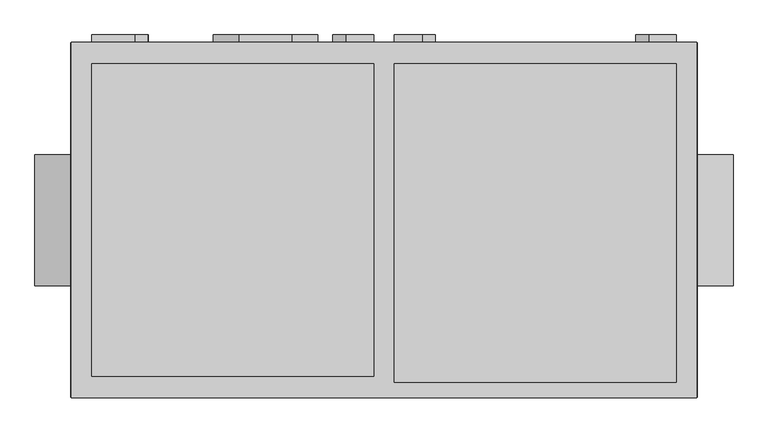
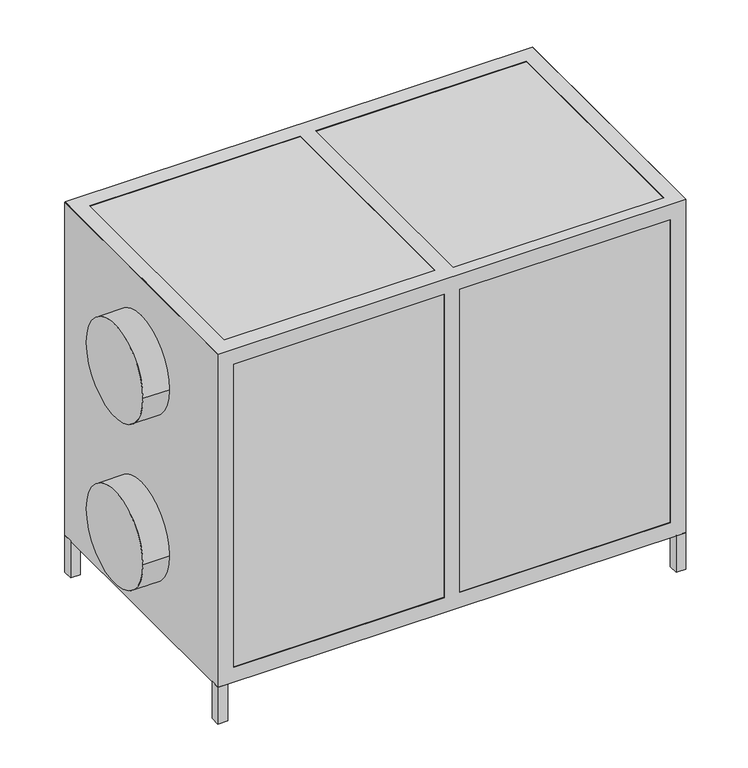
"""IFC4 building model written with IfcOpenShell, lengths in millimetres: proxy geometry, AVS 400...1600-S-RC(RG)-L : AVS 1100-S-RG-L."""

from ifc_helpers import new_model, si_unit, point, frame, frame_2d, origin, origin_with_axes, place, context, project, spatial, polyline, circle_curve, trimmed, segment, composite_curve, outline, extrude, faceted_brep, source, transform, mapped, element, save


def mechanical_equipment_707ccb95(model_context):
    return source(origin(), model_context, "Body", "SolidModel", [
        extrude(outline(polyline([(572.5, 338.0), (597.5, 338.0), (597.5, 313.0), (572.5, 313.0), (572.5, 338.0)])), origin_with_axes(), (0.0, 0.0, 1.0), 100.0),
        extrude(outline(polyline([(572.5, -338.0), (572.5, -313.0), (597.5, -313.0), (597.5, -338.0), (572.5, -338.0)])), origin_with_axes(), (0.0, 0.0, 1.0), 100.0),
        extrude(outline(polyline([(-597.5, 313.0), (-597.5, 338.0), (-572.5, 338.0), (-572.5, 313.0), (-597.5, 313.0)])), origin_with_axes(), (0.0, 0.0, 1.0), 100.0),
        extrude(outline(polyline([(-597.5, -313.0), (-572.5, -313.0), (-572.5, -338.0), (-597.5, -338.0), (-597.5, -313.0)])), origin_with_axes(), (0.0, 0.0, 1.0), 100.0),
        faceted_brep([(596.5, 339.0, 999.0), (-596.5, 339.0, 999.0), (-596.5, -339.0, 999.0), (596.5, -339.0, 999.0), (-557.5, 298.0, 999.0), (-20.0, 298.0, 999.0), (-20.0, -298.0, 999.0), (-557.5, -298.0, 999.0), (557.5, 298.0, 999.0), (557.5, -309.0, 999.0), (20.0, -309.0, 999.0), (20.0, 298.0, 999.0), (596.5, 339.0, 99.0), (596.5, -339.0, 99.0), (-596.5, -339.0, 99.0), (-596.5, 339.0, 99.0), (-20.0, 298.0, 99.0), (-557.5, 298.0, 99.0), (-557.5, -298.0, 99.0), (-20.0, -298.0, 99.0), (557.5, -309.0, 99.0), (557.5, 298.0, 99.0), (20.0, 298.0, 99.0), (20.0, -309.0, 99.0), (-20.0, 339.0, 958.0), (-557.5, 339.0, 958.0), (-557.5, 339.0, 140.0), (-20.0, 339.0, 140.0), (557.5, 339.0, 140.0), (557.5, 339.0, 958.0), (20.0, 339.0, 958.0), (20.0, 339.0, 140.0), (-596.5, -298.0, 958.0), (-596.5, -298.0, 140.0), (-596.5, 298.0, 140.0), (-596.5, 298.0, 958.0), (-557.5, -339.0, 958.0), (-20.0, -339.0, 958.0), (-20.0, -339.0, 140.0), (-557.5, -339.0, 140.0), (557.5, -339.0, 958.0), (557.5, -339.0, 140.0), (20.0, -339.0, 140.0), (20.0, -339.0, 958.0), (596.5, -298.0, 140.0), (596.5, -298.0, 958.0), (596.5, 298.0, 958.0), (596.5, 298.0, 140.0), (-557.5, 298.0, 958.0), (-20.0, 298.0, 958.0), (-20.0, 298.0, 140.0), (-557.5, 298.0, 140.0), (-20.0, -298.0, 958.0), (-557.5, -298.0, 958.0), (-557.5, -298.0, 140.0), (-20.0, -298.0, 140.0), (557.5, 298.0, 958.0), (557.5, -298.0, 958.0), (557.5, -298.0, 140.0), (557.5, 298.0, 140.0), (557.5, -309.0, 140.0), (557.5, -309.0, 958.0), (20.0, 298.0, 958.0), (20.0, -298.0, 958.0), (20.0, -298.0, 140.0), (20.0, 298.0, 140.0), (20.0, -309.0, 958.0), (20.0, -309.0, 140.0)], [[[0, 1, 2, 3], [4, 5, 6, 7], [8, 9, 10, 11]], [[12, 13, 14, 15], [16, 17, 18, 19], [20, 21, 22, 23]], [[1, 0, 12, 15], [24, 25, 26, 27], [28, 29, 30, 31]], [[2, 1, 15, 14], [32, 33, 34, 35]], [[3, 2, 14, 13], [36, 37, 38, 39], [40, 41, 42, 43]], [[0, 3, 13, 12], [44, 45, 46, 47]], [[5, 4, 48, 49]], [[17, 16, 50, 51]], [[7, 6, 52, 53]], [[19, 18, 54, 55]], [[9, 8, 56, 57, 58, 59, 21, 20, 60, 41, 40, 61]], [[56, 29, 28, 59]], [[35, 48, 53, 32]], [[56, 46, 45, 57]], [[49, 62, 63, 52]], [[51, 34, 33, 54]], [[47, 59, 58, 44]], [[55, 64, 65, 50]], [[36, 53, 52, 37]], [[24, 49, 48, 25]], [[54, 39, 38, 55]], [[50, 27, 26, 51]], [[32, 53, 54, 33]], [[57, 45, 44, 58]], [[52, 63, 64, 55]], [[48, 35, 34, 51]], [[62, 49, 50, 65]], [[59, 47, 46, 56]], [[4, 7, 53, 48]], [[18, 17, 51, 54]], [[53, 36, 39, 54]], [[25, 48, 51, 26]], [[6, 5, 49, 52]], [[16, 19, 55, 50]], [[37, 52, 55, 38]], [[49, 24, 27, 50]], [[8, 11, 62, 56]], [[22, 21, 59, 65]], [[11, 10, 66, 43, 42, 67, 23, 22, 65, 64, 63, 62]], [[30, 62, 65, 31]], [[10, 9, 61, 66]], [[20, 23, 67, 60]], [[61, 40, 43, 66]], [[29, 56, 62, 30]], [[41, 60, 67, 42]], [[59, 28, 31, 65]]]),
        extrude(outline(polyline([(-597.5, 338.0), (597.5, 338.0), (597.5, -338.0), (-597.5, -338.0), (-597.5, 338.0)])), frame((0.0, 0.0, 100.0), z_axis=(0.0, 0.0, 1.0), x_axis=(1.0, 0.0, 0.0)), (0.0, 0.0, 1.0), 898.0),
        extrude(outline(composite_curve([segment(polyline([(798.5, -474.7895396), (798.5, -557.5), (748.5, -557.5), (748.5, -474.7895396)]), True, "CONTINUOUS"), segment(trimmed(circle_curve(frame_2d((773.5, -474.7895396)), 25.0), [point((748.5, -474.7895396))], [point((798.5, -474.7895396))], False, "CARTESIAN"), True, "CONTINUOUS")], self_intersect=False)), frame((0.0, 338.0, 0.0), z_axis=(0.0, 1.0, 0.0), x_axis=(0.0, 0.0, 1.0)), (0.0, 0.0, 1.0), 15.0),
        extrude(outline(composite_curve([segment(polyline([(349.5, -474.7895396), (349.5, -557.5), (299.5, -557.5), (299.5, -474.7895396)]), True, "CONTINUOUS"), segment(trimmed(circle_curve(frame_2d((324.5, -474.7895396)), 25.0), [point((299.5, -474.7895396))], [point((349.5, -474.7895396))], False, "CARTESIAN"), True, "CONTINUOUS")], self_intersect=False)), frame((0.0, 338.0, 0.0), z_axis=(0.0, 1.0, 0.0), x_axis=(0.0, 0.0, 1.0)), (0.0, 0.0, 1.0), 15.0),
        extrude(outline(composite_curve([segment(trimmed(circle_curve(frame_2d((652.0, -72.7104604)), 25.0), [point((677.0, -72.7104604))], [point((627.0, -72.7104604))], False, "CARTESIAN"), True, "CONTINUOUS"), segment(polyline([(627.0, -72.7104604), (627.0, -20.0), (677.0, -20.0), (677.0, -72.7104604)]), True, "CONTINUOUS")], self_intersect=False)), frame((0.0, 338.0, 0.0), z_axis=(0.0, 1.0, 0.0), x_axis=(0.0, 0.0, 1.0)), (0.0, 0.0, 1.0), 15.0),
        extrude(outline(composite_curve([segment(polyline([(369.5, -72.7104604), (369.5, -20.0), (419.5, -20.0), (419.5, -72.7104604)]), True, "CONTINUOUS"), segment(trimmed(circle_curve(frame_2d((394.5, -72.7104604)), 25.0), [point((419.5, -72.7104604))], [point((369.5, -72.7104604))], False, "CARTESIAN"), True, "CONTINUOUS")], self_intersect=False)), frame((0.0, 338.0, 0.0), z_axis=(0.0, 1.0, 0.0), x_axis=(0.0, 0.0, 1.0)), (0.0, 0.0, 1.0), 15.0),
        extrude(outline(composite_curve([segment(trimmed(circle_curve(frame_2d((881.5, 504.7895396)), 25.0), [point((906.5, 504.7895396))], [point((856.5, 504.7895396))], False, "CARTESIAN"), True, "CONTINUOUS"), segment(polyline([(856.5, 504.7895396), (856.5, 557.5), (906.5, 557.5), (906.5, 504.7895396)]), True, "CONTINUOUS")], self_intersect=False)), frame((0.0, 338.0, 0.0), z_axis=(0.0, 1.0, 0.0), x_axis=(0.0, 0.0, 1.0)), (0.0, 0.0, 1.0), 15.0),
        extrude(outline(composite_curve([segment(polyline([(191.5, 504.7895396), (191.5, 557.5), (241.5, 557.5), (241.5, 504.7895396)]), True, "CONTINUOUS"), segment(trimmed(circle_curve(frame_2d((216.5, 504.7895396)), 25.0), [point((241.5, 504.7895396))], [point((191.5, 504.7895396))], False, "CARTESIAN"), True, "CONTINUOUS")], self_intersect=False)), frame((0.0, 338.0, 0.0), z_axis=(0.0, 1.0, 0.0), x_axis=(0.0, 0.0, 1.0)), (0.0, 0.0, 1.0), 15.0),
        extrude(outline(composite_curve([segment(polyline([(848.5, 72.7104604), (848.5, 20.0), (798.5, 20.0), (798.5, 72.7104604)]), True, "CONTINUOUS"), segment(trimmed(circle_curve(frame_2d((823.5, 72.7104604)), 25.0), [point((798.5, 72.7104604))], [point((848.5, 72.7104604))], False, "CARTESIAN"), True, "CONTINUOUS")], self_intersect=False)), frame((0.0, 338.0, 0.0), z_axis=(0.0, 1.0, 0.0), x_axis=(0.0, 0.0, 1.0)), (0.0, 0.0, 1.0), 15.0),
        extrude(outline(composite_curve([segment(trimmed(circle_curve(frame_2d((274.5, 72.7104604)), 25.0), [point((249.5, 72.7104604))], [point((299.5, 72.7104604))], False, "CARTESIAN"), True, "CONTINUOUS"), segment(polyline([(299.5, 72.7104604), (299.5, 20.0), (249.5, 20.0), (249.5, 72.7104604)]), True, "CONTINUOUS")], self_intersect=False)), frame((0.0, 338.0, 0.0), z_axis=(0.0, 1.0, 0.0), x_axis=(0.0, 0.0, 1.0)), (0.0, 0.0, 1.0), 15.0),
        extrude(outline(composite_curve([segment(polyline([(897.4531077, -175.9249776), (897.4531077, -275.9249776)]), True, "CONTINUOUS"), segment(trimmed(circle_curve(frame_2d((847.4531077, -275.9249776)), 50.0), [point((897.4531077, -275.9249776))], [point((797.4531077, -275.9249776))], False, "CARTESIAN"), True, "CONTINUOUS"), segment(polyline([(797.4531077, -275.9249776), (797.4531077, -175.9249776)]), True, "CONTINUOUS"), segment(trimmed(circle_curve(frame_2d((847.4531077, -175.9249776)), 50.0), [point((797.4531077, -175.9249776))], [point((897.4531077, -175.9249776))], False, "CARTESIAN"), True, "CONTINUOUS")], self_intersect=False)), frame((0.0, 338.0, 0.0), z_axis=(0.0, 1.0, 0.0), x_axis=(0.0, 0.0, 1.0)), (0.0, 0.0, 1.0), 15.0),
        extrude(outline(composite_curve([segment(trimmed(circle_curve(frame_2d((0.0, 773.5)), 125.0), [point((-125.0, 773.5))], [point((125.0, 773.5))], False, "CARTESIAN"), True, "CONTINUOUS"), segment(trimmed(circle_curve(frame_2d((0.0, 773.5)), 125.0), [point((125.0, 773.5))], [point((-125.0, 773.5))], False, "CARTESIAN"), True, "CONTINUOUS")], self_intersect=False)), frame((-665.5, 0.0, 0.0), z_axis=(1.0, 0.0, 0.0), x_axis=(0.0, 1.0, 0.0)), (0.0, 0.0, 1.0), 68.0),
        extrude(outline(composite_curve([segment(trimmed(circle_curve(frame_2d((0.0, 324.5)), 125.0), [point((-125.0, 324.5))], [point((125.0, 324.5))], False, "CARTESIAN"), True, "CONTINUOUS"), segment(trimmed(circle_curve(frame_2d((0.0, 324.5)), 125.0), [point((125.0, 324.5))], [point((-125.0, 324.5))], False, "CARTESIAN"), True, "CONTINUOUS")], self_intersect=False)), frame((-665.5, 0.0, 0.0), z_axis=(1.0, 0.0, 0.0), x_axis=(0.0, 1.0, 0.0)), (0.0, 0.0, 1.0), 68.0),
        extrude(outline(composite_curve([segment(trimmed(circle_curve(frame_2d((0.0, 773.5)), 125.0), [point((-125.0, 773.5))], [point((125.0, 773.5))], False, "CARTESIAN"), True, "CONTINUOUS"), segment(trimmed(circle_curve(frame_2d((0.0, 773.5)), 125.0), [point((125.0, 773.5))], [point((-125.0, 773.5))], False, "CARTESIAN"), True, "CONTINUOUS")], self_intersect=False)), frame((597.5, 0.0, 0.0), z_axis=(1.0, 0.0, 0.0), x_axis=(0.0, 1.0, 0.0)), (0.0, 0.0, 1.0), 68.0),
        extrude(outline(composite_curve([segment(trimmed(circle_curve(frame_2d((0.0, 324.5)), 125.0), [point((-125.0, 324.5))], [point((125.0, 324.5))], False, "CARTESIAN"), True, "CONTINUOUS"), segment(trimmed(circle_curve(frame_2d((0.0, 324.5)), 125.0), [point((125.0, 324.5))], [point((-125.0, 324.5))], False, "CARTESIAN"), True, "CONTINUOUS")], self_intersect=False)), frame((597.5, 0.0, 0.0), z_axis=(1.0, 0.0, 0.0), x_axis=(0.0, 1.0, 0.0)), (0.0, 0.0, 1.0), 68.0),
    ])


if __name__ == "__main__":
    model = new_model("IFC4")
    model_context = context("Model", 3, world=origin())
    ifc_project = project(units=[si_unit("LENGTHUNIT", "METRE", prefix="MILLI")], contexts=[model_context])
    site = spatial("IfcSite", under=ifc_project)
    building = spatial("IfcBuilding", under=site)
    placement = place(None, origin())
    mechanical_equipment_shape = mechanical_equipment_707ccb95(model_context)
    element("IfcBuildingElementProxy", 1, Name="AVS 400...1600-S-RC(RG)-L : AVS 1100-S-RG-L", ObjectType="AVS 400...1600-S-RC(RG)-L : AVS 1100-S-RG-L", at=placement, inside=building, context=model_context, shape_type="MappedRepresentation", body=[
        mapped(mechanical_equipment_shape, transform((0.0, 0.0, 0.0), x_axis=(1.0, 0.0, 0.0), y_axis=(0.0, 1.0, 0.0), z_axis=(0.0, 0.0, 1.0))),
    ])
    save(model, "model.ifc")
